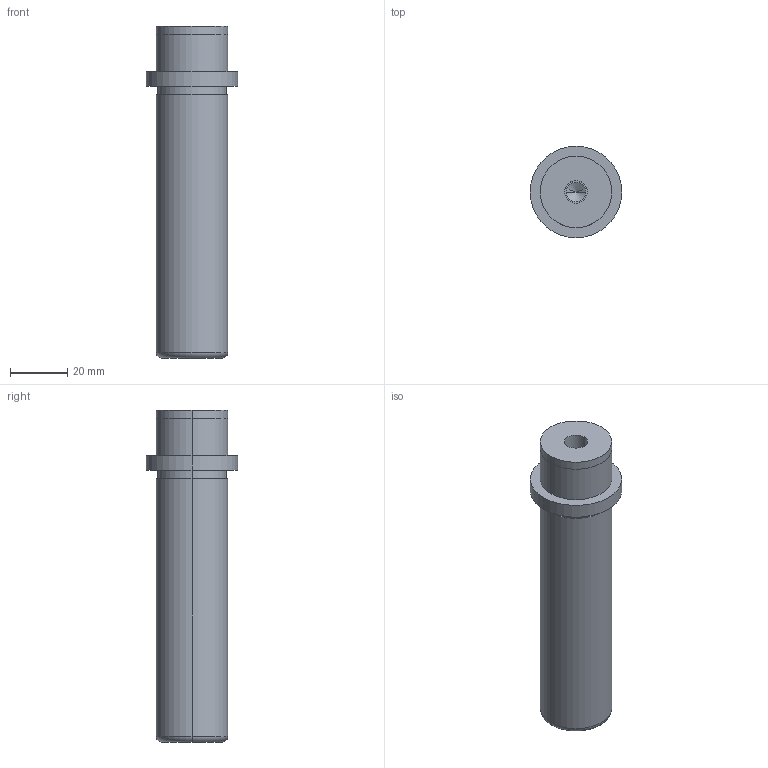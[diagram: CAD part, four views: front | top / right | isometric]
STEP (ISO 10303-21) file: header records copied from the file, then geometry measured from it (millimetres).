
FILE_DESCRIPTION(/* description */ (''),/* implementation_level */ '2;1');
FILE_NAME(/* name */ '3d_sgpw25-100_05261_r00.stp',/* time_stamp */ '2011-01-10T14:11:03+09:00',/* author */ ('MISUMI'),/* organization */ (''),/* preprocessor_version */ 'ST-DEVELOPER v11',/* originating_system */ 'UGS - NX 5.0',/* authorisation */ '');
FILE_SCHEMA (('CONFIG_CONTROL_DESIGN'));
Length unit declared in the file: millimetre
Products named in the file (1): 3d_sgpw25-100_05261_r00
Bounding box: 32 x 32 x 116 mm (x, y, z)
Volume: 56325.4 mm3; surface area: 11828.9 mm2
Topology: 1 solids, 1 shells, 31 faces, 64 edges, 38 vertices
Faces by surface type: cylinder 18, plane 7, cone 4, torus 2
Entity records: 890 total; most frequent: DIRECTION 162, CARTESIAN_POINT 130, ORIENTED_EDGE 120, AXIS2_PLACEMENT_3D 70, EDGE_CURVE 60, EDGE_LOOP 38, CIRCLE 38, VERTEX_POINT 38
